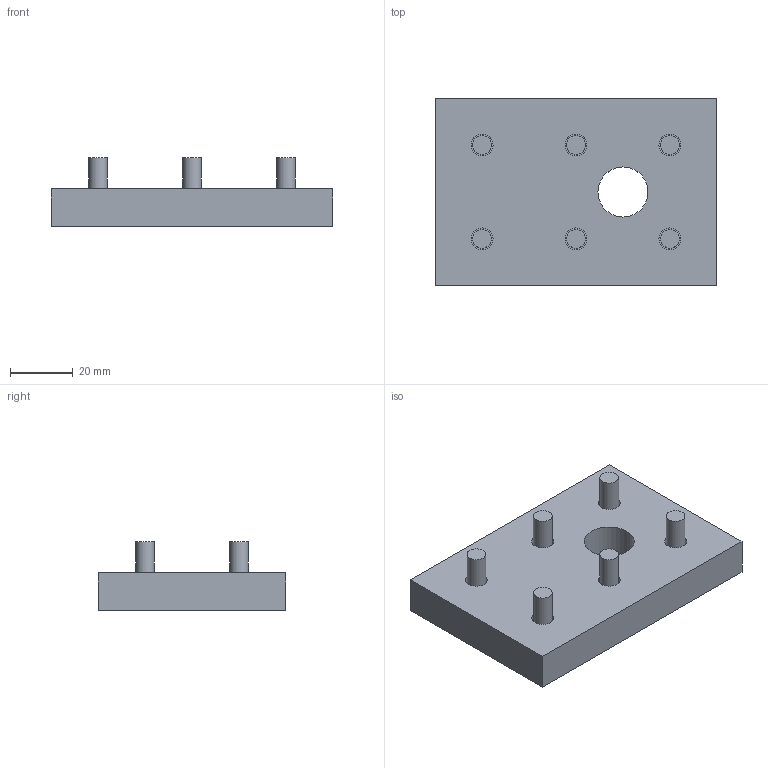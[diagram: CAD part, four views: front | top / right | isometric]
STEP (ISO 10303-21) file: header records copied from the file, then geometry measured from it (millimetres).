
FILE_DESCRIPTION((''),'2;1');
FILE_NAME('C:\Documents and Settings\古川典政\My Documents\Inventor\HP用\MasterData\ACCESSORY\M6\LFB-6090-6.stp','2008-08-05T14:46:15',(''),(''),'Autodesk Inventor 2008','Autodesk Inventor 2008','');
FILE_SCHEMA(('CONFIG_CONTROL_DESIGN'));
Length unit declared in the file: millimetre
Products named in the file (8): LFB-6090-6; LFB-6090-61; LFB-6090-62; LFB-6090-63; LFB-6090-64; LFB-6090-65; LFB-6090-66; LFB-6090-67
Assembly tree (7 placements, depth 2):
  LFB-6090-6
    LFB-6090-61
    LFB-6090-62
    LFB-6090-63
    LFB-6090-64
    LFB-6090-65
    LFB-6090-66
    LFB-6090-67
Bounding box: 90 x 60 x 22 mm (x, y, z)
Volume: 62615.6 mm3; surface area: 20019.6 mm2
Topology: 7 solids, 7 shells, 55 faces, 88 edges, 59 vertices
Faces by surface type: plane 24, bspline 19, cylinder 12
Full cylindrical faces by diameter (mm): 6 x6, 10 x6
Entity records: 1560 total; most frequent: CARTESIAN_POINT 429, DIRECTION 214, ORIENTED_EDGE 124, EDGE_LOOP 106, AXIS2_PLACEMENT_3D 101, EDGE_CURVE 62, VERTEX_POINT 58, FACE_OUTER_BOUND 55
